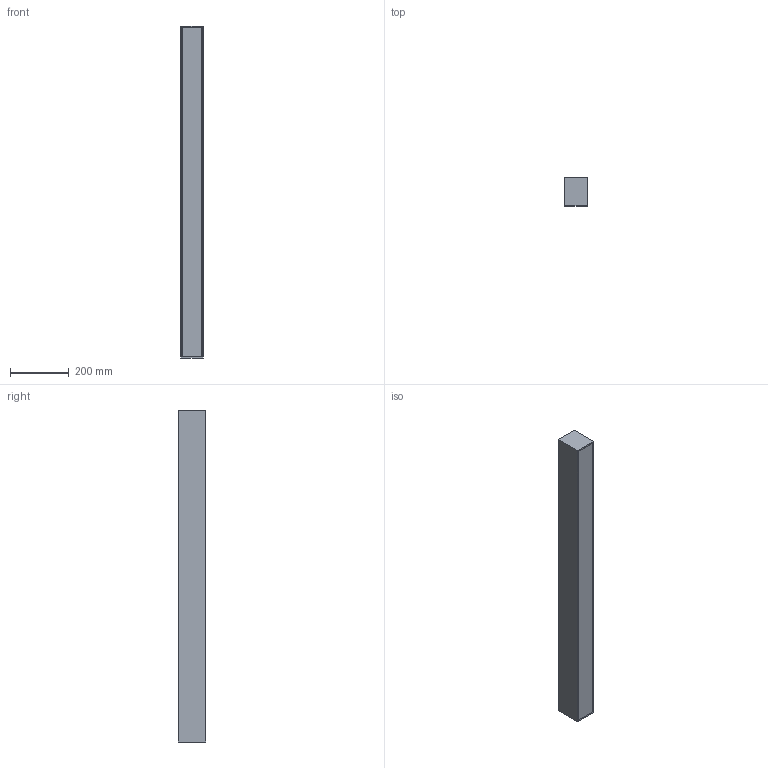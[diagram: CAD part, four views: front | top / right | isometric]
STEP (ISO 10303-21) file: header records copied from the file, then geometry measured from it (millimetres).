
FILE_DESCRIPTION (( 'STEP AP214' ), '1' );
FILE_NAME ('mLight_Kleo X LED_1124mm_Direct_Indirect.STEP', '2019-05-29T05:40:09', ( '' ), ( '' ), 'SwSTEP 2.0', 'SolidWorks 2017', '' );
FILE_SCHEMA (( 'AUTOMOTIVE_DESIGN' ));
Length unit declared in the file: millimetre
Products named in the file (1): mLight_Kleo X LED_1124mm_Direct_Indirect
Bounding box: 77.6 x 95.24 x 1134 mm (x, y, z)
Volume: 8169615.7 mm3; surface area: 487444.4 mm2
Topology: 1 solids, 1 shells, 106 faces, 294 edges, 196 vertices
Faces by surface type: plane 59, cylinder 45, bspline 2
Entity records: 3456 total; most frequent: CARTESIAN_POINT 635, DIRECTION 590, ORIENTED_EDGE 588, EDGE_CURVE 294, AXIS2_PLACEMENT_3D 199, VERTEX_POINT 196, VECTOR 192, LINE 192
